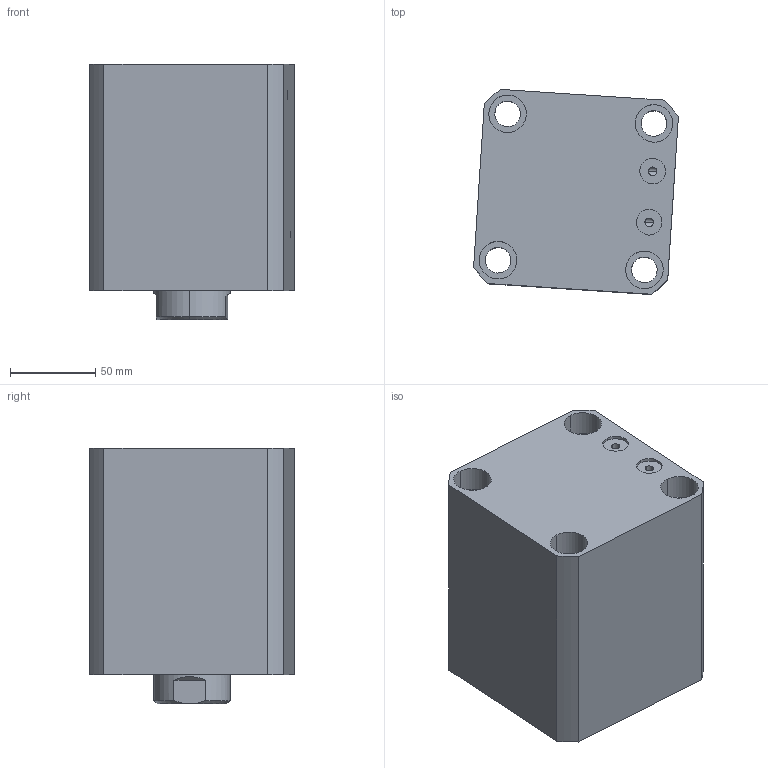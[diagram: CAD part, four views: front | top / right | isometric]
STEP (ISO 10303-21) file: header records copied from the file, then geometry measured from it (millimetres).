
FILE_DESCRIPTION (( 'STEP AP214' ), '1' );
FILE_NAME ('chtb-sdmb80x55n_asm.STEP', '2018-05-25T03:36:03', ( 'Windows' ), ( 'Microsoft' ), 'SwSTEP 2.0', 'SolidWorks 2015', '' );
FILE_SCHEMA (( 'AUTOMOTIVE_DESIGN' ));
Length unit declared in the file: millimetre
Products named in the file (4): CHTB-SDMB80X55NBT; CHTB-SD80X55NHSG; CHTB-SD80QG; chtb-sdmb80x55n_asm
Assembly tree (3 placements, depth 2):
  chtb-sdmb80x55n_asm
    CHTB-SD80QG
    CHTB-SD80X55NHSG
    CHTB-SDMB80X55NBT
Bounding box: 120.04 x 120.04 x 150 mm (x, y, z)
Volume: 1386706.9 mm3; surface area: 206553.8 mm2
Topology: 3 solids, 3 shells, 190 faces, 516 edges, 345 vertices
Faces by surface type: cylinder 107, plane 35, torus 18, cone 16, bspline 14
Entity records: 15174 total; most frequent: CARTESIAN_POINT 10467, ORIENTED_EDGE 1020, DIRECTION 879, EDGE_CURVE 510, AXIS2_PLACEMENT_3D 368, VERTEX_POINT 345, EDGE_LOOP 227, FACE_OUTER_BOUND 190
